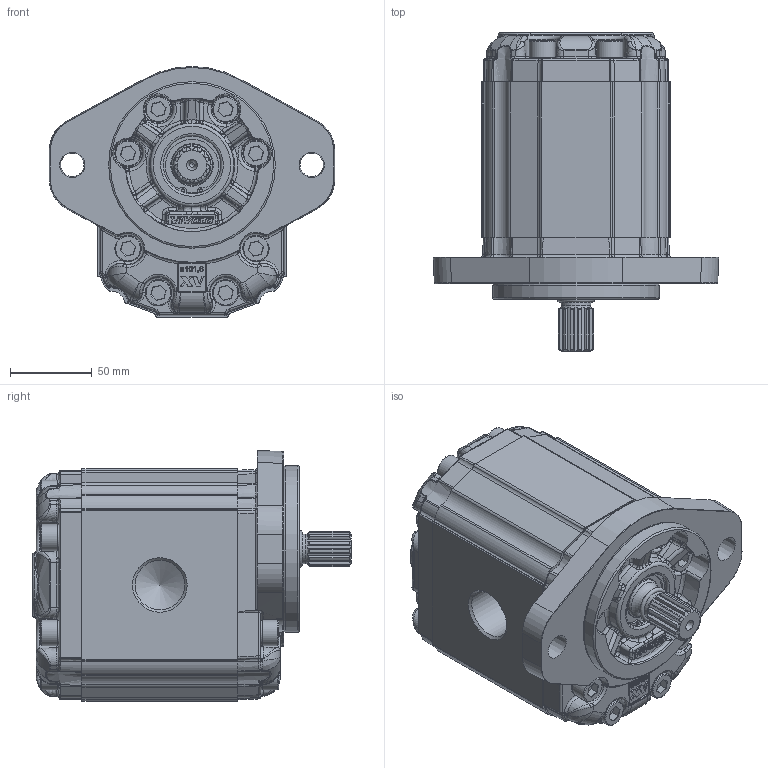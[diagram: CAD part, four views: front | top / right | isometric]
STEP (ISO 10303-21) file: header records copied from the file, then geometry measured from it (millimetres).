
FILE_DESCRIPTION( ( 'Unknown' ), '1' );
FILE_NAME( 'P:/montaggio_easy/output/STP/X3U8131IEEA.stp', 'Unknown', ( 'Unknown' ), ( 'Unknown' ), 'PSStep 14.0', 'Unknown', ' ' );
FILE_SCHEMA( ( 'AUTOMOTIVE_DESIGN { 1 0 10303 214 1 1 1 1 }' ) );
Length unit declared in the file: millimetre
Products named in the file (5): Assem1; X3U31; 3I; X3EEH95; XU331-A
Bounding box: 174 x 194.2 x 153 mm (x, y, z)
Volume: 4401813.7 mm3; surface area: 414556 mm2
Topology: 8 solids, 42 shells, 6082 faces, 15736 edges, 9932 vertices
Faces by surface type: bspline 2478, plane 1742, cylinder 1292, torus 194, cone 184, extrusion 104, revolution 54, sphere 32, offset 2
Full cylindrical faces by diameter (mm): 2 x4, 10 x32, 15.8 x32, 16 x32, 18 x4, 24.98 x2, 25.5 x2, 26.8 x2, 29.425 x2, 30.291 x4, 31.42 x2, 33.304 x2, 34.7 x2, 35 x4, 35.2 x2, 37 x2, 101.6 x2
Entity records: 170190 total; most frequent: CARTESIAN_POINT 87658, ORIENTED_EDGE 15280, EDGE_CURVE 7640, DIRECTION 6721, VERTEX_POINT 4901, B_SPLINE_CURVE_WITH_KNOTS 4526, EDGE_LOOP 3310, FACE_OUTER_BOUND 3142
